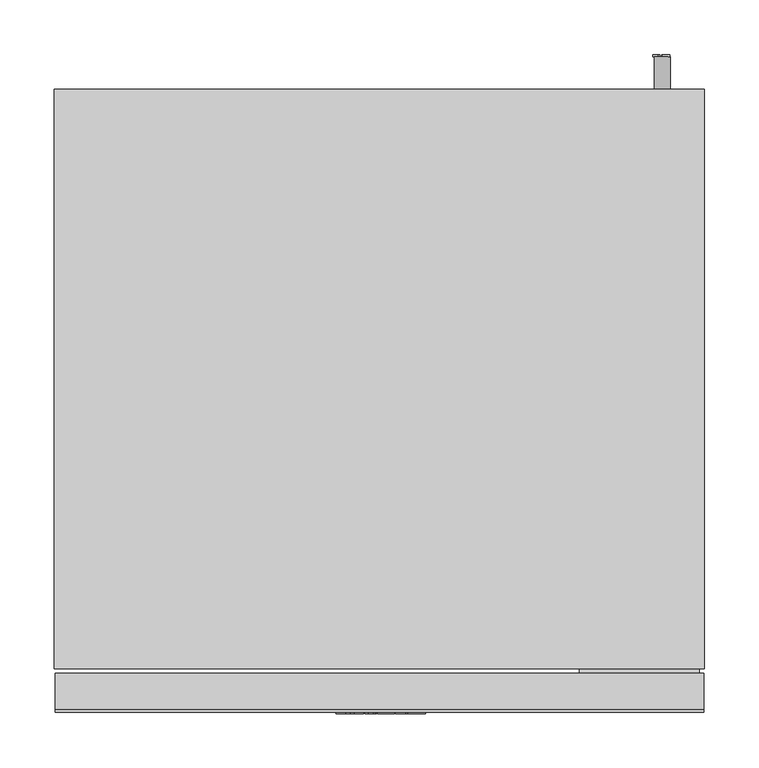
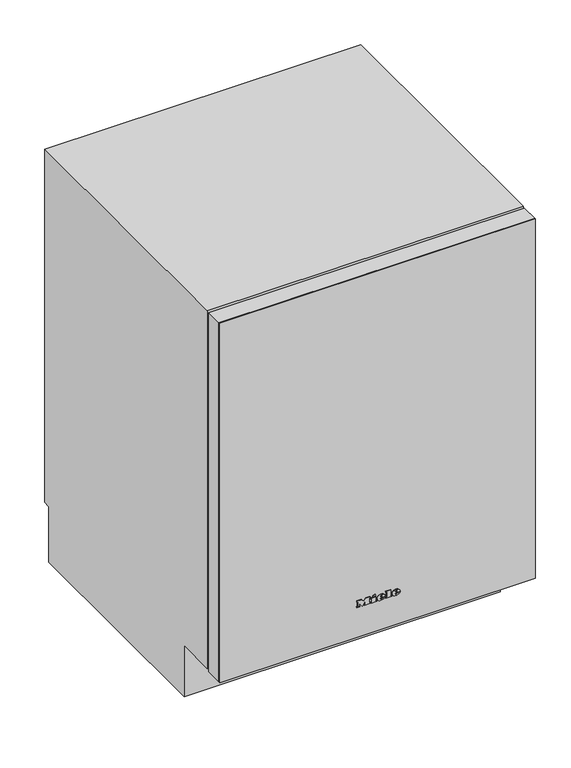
"""IFC4 building model written with IfcOpenShell, lengths in millimetres: proxy geometry, 10028650_USA_KWT6312UGS : 36631200_USA_10028650_KWT6312UGS."""

from ifc_helpers import new_model, si_unit, point, frame, frame_2d, origin, place, context, project, spatial, polyline, circle_curve, ellipse_curve, trimmed, segment, composite_curve, outline, extrude, faceted_brep, source, transform, mapped, element, save
from ifc_brep_helpers import plane_surface, cylinder_surface, revolved_surface, extruded_surface, advanced_brep


def specialty_equipment_586057da(model_context):
    return source(origin(), model_context, "Body", "SolidModel", [
        faceted_brep([(233.5, 72.832547, 400.5725635), (233.5, 487.167453, 400.5725635), (203.5, 487.167453, 400.5725635), (203.5, 474.7903394, 400.5725635), (168.5, 474.7903394, 400.5725635), (168.5, 487.167453, 400.5725635), (138.5, 487.167453, 400.5725635), (138.5, 72.832547, 400.5725635), (168.5, 72.832547, 400.5725635), (168.5, 84.832547, 400.5725635), (203.5, 84.832547, 400.5725635), (203.5, 72.832547, 400.5725635), (138.5, 72.832547, 385.5725635), (138.5, 487.167453, 385.5725635), (233.5, 487.167453, 385.5725635), (233.5, 72.832547, 385.5725635), (203.5, 72.832547, 615.5725635), (168.5, 72.832547, 615.5725635), (168.5, 487.167453, 615.5725635), (203.5, 487.167453, 615.5725635), (203.5, 84.832547, 615.5725635), (193.5, 84.832547, 615.5725635), (193.5, 474.7903394, 615.5725635), (203.5, 474.7903394, 615.5725635), (168.5, 474.7903394, 615.5725635), (187.2040205, 474.7903394, 615.5725635), (187.2040205, 84.832547, 615.5725635), (168.5, 84.832547, 615.5725635), (187.2040205, 84.832547, 565.5725635), (168.5, 84.832547, 565.5725635), (168.5, 84.832547, 555.5725635), (193.5, 84.832547, 555.5725635), (168.5, 474.7903394, 565.5725635), (168.5, 474.7903394, 555.5725635), (193.5, 474.7903394, 555.5725635), (187.2040205, 474.7903394, 565.5725635)], [[[0, 1, 2, 3, 4, 5, 6, 7, 8, 9, 10, 11]], [[12, 13, 14, 15]], [[12, 15, 0, 11, 16, 17, 8, 7]], [[1, 0, 15, 14]], [[14, 13, 6, 5, 18, 19, 2, 1]], [[7, 6, 13, 12]], [[17, 16, 20, 21, 22, 23, 19, 18, 24, 25, 26, 27]], [[20, 16, 11, 10]], [[27, 26, 28, 29]], [[20, 10, 9, 30, 31, 21]], [[17, 27, 29, 32, 24, 18, 5, 4, 33, 30, 9, 8]], [[34, 31, 30, 33]], [[22, 21, 31, 34]], [[32, 29, 28, 35]], [[19, 23, 3, 2]], [[25, 24, 32, 35]], [[3, 23, 22, 34, 33, 4]], [[26, 25, 35, 28]]]),
        faceted_brep([(258.5, 50.0, 385.5725635), (258.5, 510.0, 385.5725635), (-258.5, 510.0, 385.5725635), (-258.5, 50.0, 385.5725635), (-101.5, 91.5, 385.5725635), (-214.5, 91.5, 385.5725635), (-214.5, 171.5, 385.5725635), (-101.5, 171.5, 385.5725635), (-101.5, 189.0, 385.5725635), (-214.5, 189.0, 385.5725635), (-214.5, 271.0, 385.5725635), (-101.5, 271.0, 385.5725635), (-101.5, 289.0, 385.5725635), (-214.5, 289.0, 385.5725635), (-214.5, 369.0, 385.5725635), (-101.5, 369.0, 385.5725635), (-101.5, 387.0, 385.5725635), (-214.5, 387.0, 385.5725635), (-214.5, 467.0, 385.5725635), (-101.5, 467.0, 385.5725635), (-258.5, 50.0, 376.0), (-258.5, 510.0, 376.0), (258.5, 510.0, 376.0), (258.5, 50.0, 376.0), (-93.5, 80.0, 376.0), (-93.5, 480.0, 376.0), (-222.5, 480.0, 376.0), (-222.5, 80.0, 376.0), (-258.5, 40.0, 367.9661502), (258.5, 40.0, 367.9661502), (258.5, 40.0, 370.9661502), (-258.5, 40.0, 370.9661502), (258.5, 40.0, 393.9661502), (-258.5, 40.0, 393.9661502), (-258.5, 40.0, 390.9661502), (258.5, 40.0, 390.9661502), (258.5, 50.0, 367.9661502), (258.5, 510.0, 367.9661502), (258.5, 520.0, 367.9661502), (258.5, 520.0, 370.9661502), (258.5, 519.4354278, 370.9661502), (258.5, 519.4354278, 390.9661502), (258.5, 520.0, 390.9661502), (258.5, 520.0, 393.9661502), (258.5, 510.0, 393.9661502), (258.5, 50.0, 393.9661502), (258.5, 41.0, 390.9661502), (258.5, 41.0, 370.9661502), (-258.5, 520.0, 393.9661502), (-258.5, 520.0, 390.9661502), (-258.5, 520.0, 367.9661502), (-258.5, 520.0, 370.9661502), (-258.5, 50.0, 393.9661502), (-258.5, 510.0, 393.9661502), (-258.5, 519.4354278, 390.9661502), (-258.5, 519.4354278, 370.9661502), (-258.5, 510.0, 367.9661502), (-258.5, 50.0, 367.9661502), (-258.5, 41.0, 370.9661502), (-258.5, 41.0, 390.9661502), (-93.5, 480.0, 307.0), (-93.5, 80.0, 307.0), (-222.5, 80.0, 307.0), (-222.5, 480.0, 307.0), (-101.5, 91.5, 334.9654333), (-214.5, 91.5, 334.9654333), (-101.5, 171.5, 334.9654333), (-214.5, 171.5, 334.9654333), (-101.5, 189.0, 334.9654333), (-214.5, 189.0, 334.9654333), (-101.5, 271.0, 334.9654333), (-214.5, 271.0, 334.9654333), (-101.5, 289.0, 334.9654333), (-214.5, 289.0, 334.9654333), (-101.5, 369.0, 334.9654333), (-214.5, 369.0, 334.9654333), (-101.5, 387.0, 334.9654333), (-214.5, 387.0, 334.9654333), (-101.5, 467.0, 334.9654333), (-214.5, 467.0, 334.9654333)], [[[0, 1, 2, 3], [4, 5, 6, 7], [8, 9, 10, 11], [12, 13, 14, 15], [16, 17, 18, 19]], [[20, 21, 22, 23], [24, 25, 26, 27]], [[28, 29, 30, 31]], [[32, 33, 34, 35]], [[29, 36, 23, 22, 37, 38, 39, 40, 41, 42, 43, 44, 1, 0, 45, 32, 35, 46, 47, 30]], [[48, 43, 42, 49]], [[38, 50, 51, 39]], [[33, 52, 3, 2, 53, 48, 49, 54, 55, 51, 50, 56, 21, 20, 57, 28, 31, 58, 59, 34]], [[52, 33, 32, 45]], [[52, 45, 0, 3]], [[36, 57, 20, 23]], [[28, 57, 36, 29]], [[48, 53, 44, 43]], [[56, 50, 38, 37]], [[44, 53, 2, 1]], [[56, 37, 22, 21]], [[60, 61, 62, 63]], [[61, 60, 25, 24]], [[62, 61, 24, 27]], [[63, 62, 27, 26]], [[60, 63, 26, 25]], [[64, 65, 5, 4]], [[66, 64, 4, 7]], [[67, 66, 7, 6]], [[65, 67, 6, 5]], [[68, 69, 9, 8]], [[70, 68, 8, 11]], [[71, 70, 11, 10]], [[69, 71, 10, 9]], [[72, 73, 13, 12]], [[74, 72, 12, 15]], [[75, 74, 15, 14]], [[73, 75, 14, 13]], [[76, 77, 17, 16]], [[78, 76, 16, 19]], [[79, 78, 19, 18]], [[77, 79, 18, 17]], [[54, 41, 40, 55]], [[41, 54, 49, 42]], [[55, 40, 39, 51]], [[65, 64, 66, 67]], [[69, 68, 70, 71]], [[73, 72, 74, 75]], [[77, 76, 78, 79]], [[58, 47, 46, 59]], [[47, 58, 31, 30]], [[59, 46, 35, 34]]]),
        advanced_brep(
        [(33.17, -1.0, 162.5204142), (33.17, -1.0, 163.8839142), (42.2015, -1.0, 163.8839142), (26.4875, -1.0, 163.8839142), (30.2, -1.0, 159.3209142), (41.972, -1.0, 162.5204142), (37.895, -1.0, 162.5204142), (34.682, -1.0, 161.0084142), (33.17, -1.0, 165.6119142), (33.17, -1.0, 167.0834142), (35.4785, -1.0, 167.0834142), (35.4785, -1.0, 165.6119142), (33.17, 0.0, 162.5204142), (34.682, 0.0, 161.0084142), (37.895, 0.0, 162.5204142), (41.972, 0.0, 162.5204142), (30.2, 0.0, 159.3209142), (26.4875, 0.0, 163.8839142), (42.2015, 0.0, 163.8839142), (33.17, 0.0, 163.8839142), (33.17, 0.0, 165.6119142), (35.4785, 0.0, 165.6119142), (35.4785, 0.0, 167.0834142), (33.17, 0.0, 167.0834142)],
        [
            (0, 1),
            (1, 2),
            (2, 3, ellipse_curve(frame((34.3445, -1.0, 163.8839142), z_axis=(0.0, -1.0, 0.0), x_axis=(-1.0, 0.0, 0.0)), 7.857, 6.4935)),
            (3, 4, circle_curve(frame((31.7120736, -1.0, 164.3429142), z_axis=(0.0, -1.0, 0.0), x_axis=(0.0, 0.0, -1.0)), 5.2446974)),
            (4, 5, circle_curve(frame((34.1872142, -1.0, 167.9069142), z_axis=(0.0, -1.0, 0.0), x_axis=(0.0, 0.0, -1.0)), 9.46664)),
            (5, 6),
            (6, 7, circle_curve(frame((35.3419118, -1.0, 163.7759142), z_axis=(0.0, 1.0, 0.0), x_axis=(0.0, 0.0, -1.0)), 2.8450905)),
            (7, 0, circle_curve(frame((34.682, -1.0, 162.5204142), z_axis=(0.0, 1.0, 0.0), x_axis=(0.0, 0.0, -1.0)), 1.512)),
            (8, 9),
            (9, 10, circle_curve(frame((34.32425, -1.0, 167.0834142), z_axis=(0.0, 1.0, 0.0), x_axis=(0.0, 0.0, -1.0)), 1.15425)),
            (10, 11),
            (11, 8),
            (12, 13, circle_curve(frame((34.682, 0.0, 162.5204142), z_axis=(0.0, -1.0, 0.0), x_axis=(0.0, 0.0, -1.0)), 1.512)),
            (13, 14, circle_curve(frame((35.3419118, 0.0, 163.7759142), z_axis=(0.0, -1.0, 0.0), x_axis=(0.0, 0.0, -1.0)), 2.8450905)),
            (14, 15),
            (15, 16, circle_curve(frame((34.1872142, 0.0, 167.9069142), z_axis=(0.0, 1.0, 0.0), x_axis=(0.0, 0.0, -1.0)), 9.46664)),
            (16, 17, circle_curve(frame((31.7120736, 0.0, 164.3429142), z_axis=(0.0, 1.0, 0.0), x_axis=(0.0, 0.0, -1.0)), 5.2446974)),
            (17, 18, ellipse_curve(frame((34.3445, 0.0, 163.8839142), z_axis=(0.0, 1.0, 0.0), x_axis=(-1.0, 0.0, 0.0)), 7.857, 6.4935)),
            (18, 19),
            (19, 12),
            (20, 21),
            (21, 22),
            (22, 23, circle_curve(frame((34.32425, 0.0, 167.0834142), z_axis=(0.0, -1.0, 0.0), x_axis=(0.0, 0.0, -1.0)), 1.15425)),
            (23, 20),
            (0, 12),
            (19, 1),
            (18, 2),
            (5, 15),
            (14, 6),
            (17, 3),
            (13, 7),
            (16, 4),
            (8, 20),
            (23, 9),
            (22, 10),
            (21, 11),
        ],
        [
            plane_surface(frame((33.17, -1.0, 163.8839142), z_axis=(0.0, -1.0, 0.0), x_axis=(0.0, 0.0, 1.0))),
            plane_surface(frame((33.17, 0.0, 163.8839142), z_axis=(0.0, 1.0, 0.0), x_axis=(0.0, 0.0, -1.0))),
            plane_surface(frame((33.17, -1.0, 162.5204142), z_axis=(1.0, 0.0, 0.0), x_axis=(0.0, 1.0, 0.0))),
            plane_surface(frame((33.17, -1.0, 163.8839142), z_axis=(0.0, 0.0, -1.0), x_axis=(0.0, 1.0, 0.0))),
            plane_surface(frame((41.972, -1.0, 162.5204142), z_axis=(0.0, 0.0, 1.0), x_axis=(0.0, 1.0, 0.0))),
            extruded_surface(trimmed(ellipse_curve(frame((34.3445, 1.0, 163.8839142), z_axis=(0.0, -1.0, 0.0), x_axis=(-1.0, 0.0, 0.0)), 7.857, 6.4935), [point((42.2015, 1.0, 163.8839142))], [point((26.4875, 1.0, 163.8839142))], True, "CARTESIAN"), (0.0, -1.0, 0.0), 1.0),
            revolved_surface(polyline([(35.3419118, 0.0, 160.9308237), (35.3419118, -1.0, 160.9308237)]), (35.3419118, 0.0, 163.7759142), (0.0, 1.0, 0.0)),
            revolved_surface(polyline([(34.682, 0.0, 161.0084142), (34.682, -1.0, 161.0084142)]), (34.682, 0.0, 162.5204142), (0.0, 1.0, 0.0)),
            cylinder_surface(frame((31.7120736, 0.0, 164.3429142), z_axis=(0.0, -1.0, 0.0), x_axis=(0.0, 0.0, -1.0)), 5.2446974),
            cylinder_surface(frame((34.1872142, 0.0, 167.9069142), z_axis=(0.0, -1.0, 0.0), x_axis=(0.0, 0.0, -1.0)), 9.46664),
            plane_surface(frame((33.17, -1.0, 165.6119142), z_axis=(1.0, 0.0, 0.0), x_axis=(0.0, 1.0, 0.0))),
            revolved_surface(polyline([(34.32425, 0.0, 165.9291642), (34.32425, -1.0, 165.9291642)]), (34.32425, 0.0, 167.0834142), (0.0, 1.0, 0.0)),
            plane_surface(frame((35.4785, -1.0, 167.0834142), z_axis=(-1.0, 0.0, 0.0), x_axis=(0.0, 1.0, 0.0))),
            plane_surface(frame((35.4785, -1.0, 165.6119142), z_axis=(0.0, 0.0, 1.0), x_axis=(0.0, 1.0, 0.0))),
        ],
        [
            (0, [[1, 2, 3, 4, 5, 6, 7, 8], [9, 10, 11, 12]]),
            (1, [[13, 14, 15, 16, 17, 18, 19, 20], [21, 22, 23, 24]]),
            (2, [[-1, 25, -20, 26]]),
            (3, [[-2, -26, -19, 27]]),
            (4, [[-6, 28, -15, 29]]),
            (5, [[-3, -27, -18, 30]]),
            (6, [[-7, -29, -14, 31]]),
            (7, [[-8, -31, -13, -25]]),
            (8, [[-4, -30, -17, 32]]),
            (9, [[-5, -32, -16, -28]]),
            (10, [[-9, 33, -24, 34]]),
            (11, [[-10, -34, -23, 35]]),
            (12, [[-11, -35, -22, 36]]),
            (13, [[-12, -36, -21, -33]]),
        ],
    ),
        advanced_brep(
        [(4.9955, -1.0, 162.5204142), (4.9955, -1.0, 163.8839142), (14.027, -1.0, 163.8839142), (-1.687, -1.0, 163.8839142), (2.0255, -1.0, 159.3209142), (13.7975, -1.0, 162.5204142), (9.7205, -1.0, 162.5204142), (6.5075, -1.0, 161.0084142), (4.9955, -1.0, 165.6119142), (4.9955, -1.0, 167.0834142), (7.304, -1.0, 167.0834142), (7.304, -1.0, 165.6119142), (4.9955, 0.0, 162.5204142), (6.5075, 0.0, 161.0084142), (9.7205, 0.0, 162.5204142), (13.7975, 0.0, 162.5204142), (2.0255, 0.0, 159.3209142), (-1.687, 0.0, 163.8839142), (14.027, 0.0, 163.8839142), (4.9955, 0.0, 163.8839142), (4.9955, 0.0, 165.6119142), (7.304, 0.0, 165.6119142), (7.304, 0.0, 167.0834142), (4.9955, 0.0, 167.0834142)],
        [
            (0, 1),
            (1, 2),
            (2, 3, ellipse_curve(frame((6.17, -1.0, 163.8839142), z_axis=(0.0, -1.0, 0.0), x_axis=(-1.0, 0.0, 0.0)), 7.857, 6.4935)),
            (3, 4, circle_curve(frame((3.5375736, -1.0, 164.3429142), z_axis=(0.0, -1.0, 0.0), x_axis=(0.0, 0.0, -1.0)), 5.2446974)),
            (4, 5, circle_curve(frame((6.0127142, -1.0, 167.9069142), z_axis=(0.0, -1.0, 0.0), x_axis=(0.0, 0.0, -1.0)), 9.46664)),
            (5, 6),
            (6, 7, circle_curve(frame((7.1674118, -1.0, 163.7759142), z_axis=(0.0, 1.0, 0.0), x_axis=(0.0, 0.0, -1.0)), 2.8450905)),
            (7, 0, circle_curve(frame((6.5075, -1.0, 162.5204142), z_axis=(0.0, 1.0, 0.0), x_axis=(0.0, 0.0, -1.0)), 1.512)),
            (8, 9),
            (9, 10, circle_curve(frame((6.14975, -1.0, 167.0834142), z_axis=(0.0, 1.0, 0.0), x_axis=(0.0, 0.0, -1.0)), 1.15425)),
            (10, 11),
            (11, 8),
            (12, 13, circle_curve(frame((6.5075, 0.0, 162.5204142), z_axis=(0.0, -1.0, 0.0), x_axis=(0.0, 0.0, -1.0)), 1.512)),
            (13, 14, circle_curve(frame((7.1674118, 0.0, 163.7759142), z_axis=(0.0, -1.0, 0.0), x_axis=(0.0, 0.0, -1.0)), 2.8450905)),
            (14, 15),
            (15, 16, circle_curve(frame((6.0127142, 0.0, 167.9069142), z_axis=(0.0, 1.0, 0.0), x_axis=(0.0, 0.0, -1.0)), 9.46664)),
            (16, 17, circle_curve(frame((3.5375736, 0.0, 164.3429142), z_axis=(0.0, 1.0, 0.0), x_axis=(0.0, 0.0, -1.0)), 5.2446974)),
            (17, 18, ellipse_curve(frame((6.17, 0.0, 163.8839142), z_axis=(0.0, 1.0, 0.0), x_axis=(-1.0, 0.0, 0.0)), 7.857, 6.4935)),
            (18, 19),
            (19, 12),
            (20, 21),
            (21, 22),
            (22, 23, circle_curve(frame((6.14975, 0.0, 167.0834142), z_axis=(0.0, -1.0, 0.0), x_axis=(0.0, 0.0, -1.0)), 1.15425)),
            (23, 20),
            (0, 12),
            (19, 1),
            (18, 2),
            (5, 15),
            (14, 6),
            (17, 3),
            (13, 7),
            (16, 4),
            (8, 20),
            (23, 9),
            (22, 10),
            (21, 11),
        ],
        [
            plane_surface(frame((4.9955, -1.0, 163.8839142), z_axis=(0.0, -1.0, 0.0), x_axis=(0.0, 0.0, 1.0))),
            plane_surface(frame((4.9955, 0.0, 163.8839142), z_axis=(0.0, 1.0, 0.0), x_axis=(0.0, 0.0, -1.0))),
            plane_surface(frame((4.9955, -1.0, 162.5204142), z_axis=(1.0, 0.0, 0.0), x_axis=(0.0, 1.0, 0.0))),
            plane_surface(frame((4.9955, -1.0, 163.8839142), z_axis=(0.0, 0.0, -1.0), x_axis=(0.0, 1.0, 0.0))),
            plane_surface(frame((13.7975, -1.0, 162.5204142), z_axis=(0.0, 0.0, 1.0), x_axis=(0.0, 1.0, 0.0))),
            extruded_surface(trimmed(ellipse_curve(frame((6.17, 1.0, 163.8839142), z_axis=(0.0, -1.0, 0.0), x_axis=(-1.0, 0.0, 0.0)), 7.857, 6.4935), [point((14.027, 1.0, 163.8839142))], [point((-1.687, 1.0, 163.8839142))], True, "CARTESIAN"), (0.0, -1.0, 0.0), 1.0),
            revolved_surface(polyline([(7.1674118, 0.0, 160.9308237), (7.1674118, -1.0, 160.9308237)]), (7.1674118, 0.0, 163.7759142), (0.0, 1.0, 0.0)),
            revolved_surface(polyline([(6.5075, 0.0, 161.0084142), (6.5075, -1.0, 161.0084142)]), (6.5075, 0.0, 162.5204142), (0.0, 1.0, 0.0)),
            cylinder_surface(frame((3.5375736, 0.0, 164.3429142), z_axis=(0.0, -1.0, 0.0), x_axis=(0.0, 0.0, -1.0)), 5.2446974),
            cylinder_surface(frame((6.0127142, 0.0, 167.9069142), z_axis=(0.0, -1.0, 0.0), x_axis=(0.0, 0.0, -1.0)), 9.46664),
            plane_surface(frame((4.9955, -1.0, 165.6119142), z_axis=(1.0, 0.0, 0.0), x_axis=(0.0, 1.0, 0.0))),
            revolved_surface(polyline([(6.14975, 0.0, 165.9291642), (6.14975, -1.0, 165.9291642)]), (6.14975, 0.0, 167.0834142), (0.0, 1.0, 0.0)),
            plane_surface(frame((7.304, -1.0, 167.0834142), z_axis=(-1.0, 0.0, 0.0), x_axis=(0.0, 1.0, 0.0))),
            plane_surface(frame((7.304, -1.0, 165.6119142), z_axis=(0.0, 0.0, 1.0), x_axis=(0.0, 1.0, 0.0))),
        ],
        [
            (0, [[1, 2, 3, 4, 5, 6, 7, 8], [9, 10, 11, 12]]),
            (1, [[13, 14, 15, 16, 17, 18, 19, 20], [21, 22, 23, 24]]),
            (2, [[-1, 25, -20, 26]]),
            (3, [[-2, -26, -19, 27]]),
            (4, [[-6, 28, -15, 29]]),
            (5, [[-3, -27, -18, 30]]),
            (6, [[-7, -29, -14, 31]]),
            (7, [[-8, -31, -13, -25]]),
            (8, [[-4, -30, -17, 32]]),
            (9, [[-5, -32, -16, -28]]),
            (10, [[-9, 33, -24, 34]]),
            (11, [[-10, -34, -23, 35]]),
            (12, [[-11, -35, -22, 36]]),
            (13, [[-12, -36, -21, -33]]),
        ],
    ),
        extrude(outline(polyline([(172.0244142, -9.76), (169.8374142, -8.734), (171.9704142, -4.1575), (174.1574142, -5.17), (172.0244142, -9.76)])), frame((0.0, -1.0, 0.0), z_axis=(0.0, 1.0, 0.0), x_axis=(0.0, 0.0, 1.0)), (0.0, 0.0, 1.0), 1.0),
        extrude(outline(polyline([(169.5404142, -13.0945), (167.1239142, -13.0945), (167.1239142, -11.488), (161.5889142, -11.488), (161.5889142, -13.0945), (159.3209142, -13.0945), (159.3209142, -2.443), (161.5889142, -2.443), (161.5889142, -4.009), (169.5404142, -4.009), (169.5404142, -13.0945)])), frame((0.0, -1.0, 0.0), z_axis=(0.0, 1.0, 0.0), x_axis=(0.0, 0.0, 1.0)), (0.0, 0.0, 1.0), 1.0),
        extrude(outline(polyline([(170.6204142, 14.783), (170.6204142, 16.403), (161.5889142, 16.403), (161.5889142, 14.783), (159.3209142, 14.783), (159.3209142, 25.7315), (161.5889142, 25.7315), (161.5889142, 24.071), (172.8209142, 24.071), (172.8209142, 14.783), (170.6204142, 14.783)])), frame((0.0, -1.0, 0.0), z_axis=(0.0, 1.0, 0.0), x_axis=(0.0, 0.0, 1.0)), (0.0, 0.0, 1.0), 1.0),
        extrude(outline(polyline([(170.6204142, -40.0), (170.6204142, -38.3665), (161.5889142, -38.3665), (161.5889142, -40.0), (159.3209142, -40.0), (159.3209142, -34.06), (161.5889142, -34.06), (161.5889142, -35.68), (167.2965389, -35.68), (159.3209142, -29.6455), (167.5736365, -23.584), (161.5889142, -23.584), (161.5889142, -25.2445), (159.3209142, -25.2445), (159.3209142, -14.4715), (161.5889142, -14.4715), (161.5889142, -16.186), (170.6204142, -16.186), (170.6204142, -14.4715), (172.8209142, -14.4715), (172.8209142, -22.693), (167.7584142, -26.635), (172.8209142, -30.5905), (172.8209142, -40.0), (170.6204142, -40.0)])), frame((0.0, -1.0, 0.0), z_axis=(0.0, 1.0, 0.0), x_axis=(0.0, 0.0, 1.0)), (0.0, 0.0, 1.0), 1.0),
        extrude(outline(composite_curve([segment(trimmed(circle_curve(frame_2d((108.0, 260.0)), 7.5), [point((108.0, 267.5))], [point((108.0, 252.5))], False, "CARTESIAN"), True, "CONTINUOUS"), segment(trimmed(circle_curve(frame_2d((108.0, 260.0)), 7.5), [point((108.0, 252.5))], [point((108.0, 267.5))], False, "CARTESIAN"), True, "CONTINUOUS")], self_intersect=False)), frame((0.0, 572.0, 0.0), z_axis=(0.0, 1.0, 0.0), x_axis=(0.0, 0.0, 1.0)), (0.0, 0.0, 1.0), 30.0),
        advanced_brep(
        [(298.5, 572.0, 818.0), (-298.5, 572.0, 818.0), (-298.5, 40.0, 818.0), (298.5, 40.0, 818.0), (295.0, 497.0, 0.0), (262.0, 497.0, 0.0), (-262.0, 497.0, 0.0), (-295.0, 497.0, 0.0), (-262.0, 137.0, 0.0), (-295.0, 137.0, 0.0), (295.0, 137.0, 0.0), (262.0, 137.0, 0.0), (298.5, 572.0, 113.0), (-298.5, 572.0, 113.0), (-298.5, 558.5607135, 113.0), (-298.5, 558.5607135, 2.0), (-298.5, 116.0, 2.0), (-298.5, 116.0, 104.0), (-298.5, 40.0, 104.0), (298.5, 40.0, 104.0), (-258.5, 40.0, 723.0), (258.5, 40.0, 723.0), (258.5, 40.0, 180.0), (-258.5, 40.0, 180.0), (298.5, 116.0, 104.0), (298.5, 116.0, 2.0), (298.5, 558.5607135, 2.0), (298.5, 558.5607135, 113.0), (258.5, 520.0, 723.0), (-258.5, 520.0, 723.0), (-258.5, 520.0, 180.0), (258.5, 520.0, 180.0), (295.0, 497.0, 2.0), (262.0, 497.0, 2.0), (-262.0, 497.0, 2.0), (-295.0, 497.0, 2.0), (-262.0, 137.0, 2.0), (-295.0, 137.0, 2.0), (295.0, 137.0, 2.0), (262.0, 137.0, 2.0)],
        [
            (0, 1),
            (1, 2),
            (2, 3),
            (3, 0),
            (4, 5, circle_curve(frame((278.5, 497.0, 0.0), z_axis=(0.0, 0.0, -1.0), x_axis=(-1.0, 0.0, 0.0)), 16.5)),
            (5, 4, circle_curve(frame((278.5, 497.0, 0.0), z_axis=(0.0, 0.0, -1.0), x_axis=(-1.0, 0.0, 0.0)), 16.5)),
            (6, 7, circle_curve(frame((-278.5, 497.0, 0.0), z_axis=(0.0, 0.0, -1.0), x_axis=(-1.0, 0.0, 0.0)), 16.5)),
            (7, 6, circle_curve(frame((-278.5, 497.0, 0.0), z_axis=(0.0, 0.0, -1.0), x_axis=(-1.0, 0.0, 0.0)), 16.5)),
            (8, 9, circle_curve(frame((-278.5, 137.0, 0.0), z_axis=(0.0, 0.0, -1.0), x_axis=(-1.0, 0.0, 0.0)), 16.5)),
            (9, 8, circle_curve(frame((-278.5, 137.0, 0.0), z_axis=(0.0, 0.0, -1.0), x_axis=(-1.0, 0.0, 0.0)), 16.5)),
            (10, 11, circle_curve(frame((278.5, 137.0, 0.0), z_axis=(0.0, 0.0, -1.0), x_axis=(-1.0, 0.0, 0.0)), 16.5)),
            (11, 10, circle_curve(frame((278.5, 137.0, 0.0), z_axis=(0.0, 0.0, -1.0), x_axis=(-1.0, 0.0, 0.0)), 16.5)),
            (0, 12),
            (12, 13),
            (13, 1),
            (13, 14),
            (14, 15),
            (15, 16),
            (16, 17),
            (17, 18),
            (18, 2),
            (18, 19),
            (19, 3),
            (20, 21),
            (21, 22),
            (22, 23),
            (23, 20),
            (19, 24),
            (24, 25),
            (25, 26),
            (26, 27),
            (27, 12),
            (28, 29),
            (29, 30),
            (30, 31),
            (31, 28),
            (28, 21),
            (20, 29),
            (23, 30),
            (22, 31),
            (25, 16),
            (15, 26),
            (32, 33, circle_curve(frame((278.5, 497.0, 2.0), z_axis=(0.0, 0.0, 1.0), x_axis=(-1.0, 0.0, 0.0)), 16.5)),
            (33, 32, circle_curve(frame((278.5, 497.0, 2.0), z_axis=(0.0, 0.0, 1.0), x_axis=(-1.0, 0.0, 0.0)), 16.5)),
            (34, 35, circle_curve(frame((-278.5, 497.0, 2.0), z_axis=(0.0, 0.0, 1.0), x_axis=(-1.0, 0.0, 0.0)), 16.5)),
            (35, 34, circle_curve(frame((-278.5, 497.0, 2.0), z_axis=(0.0, 0.0, 1.0), x_axis=(-1.0, 0.0, 0.0)), 16.5)),
            (36, 37, circle_curve(frame((-278.5, 137.0, 2.0), z_axis=(0.0, 0.0, 1.0), x_axis=(-1.0, 0.0, 0.0)), 16.5)),
            (37, 36, circle_curve(frame((-278.5, 137.0, 2.0), z_axis=(0.0, 0.0, 1.0), x_axis=(-1.0, 0.0, 0.0)), 16.5)),
            (38, 39, circle_curve(frame((278.5, 137.0, 2.0), z_axis=(0.0, 0.0, 1.0), x_axis=(-1.0, 0.0, 0.0)), 16.5)),
            (39, 38, circle_curve(frame((278.5, 137.0, 2.0), z_axis=(0.0, 0.0, 1.0), x_axis=(-1.0, 0.0, 0.0)), 16.5)),
            (33, 5),
            (4, 32),
            (35, 7),
            (6, 34),
            (37, 9),
            (8, 36),
            (39, 11),
            (10, 38),
            (24, 17),
            (14, 27),
        ],
        [
            plane_surface(frame((-298.5, 572.0, 818.0), z_axis=(0.0, 0.0, 1.0), x_axis=(-1.0, 0.0, 0.0))),
            plane_surface(frame((-298.5, 572.0, 0.0), z_axis=(0.0, 0.0, -1.0), x_axis=(1.0, 0.0, 0.0))),
            plane_surface(frame((298.5, 572.0, 818.0), z_axis=(0.0, 1.0, 0.0), x_axis=(0.0, 0.0, -1.0))),
            plane_surface(frame((-298.5, 572.0, 818.0), z_axis=(-1.0, 0.0, 0.0), x_axis=(0.0, 0.0, -1.0))),
            plane_surface(frame((-298.5, 40.0, 818.0), z_axis=(0.0, -1.0, 0.0), x_axis=(0.0, 0.0, -1.0))),
            plane_surface(frame((298.5, 40.0, 818.0), z_axis=(1.0, 0.0, 0.0), x_axis=(0.0, 0.0, -1.0))),
            plane_surface(frame((-258.5, 520.0, 723.0), z_axis=(0.0, -1.0, 0.0), x_axis=(1.0, 0.0, 0.0))),
            plane_surface(frame((258.5, 40.0, 723.0), z_axis=(0.0, 0.0, -1.0), x_axis=(0.0, 1.0, 0.0))),
            plane_surface(frame((-258.5, 40.0, 723.0), z_axis=(1.0, 0.0, 0.0), x_axis=(0.0, 1.0, 0.0))),
            plane_surface(frame((-258.5, 40.0, 180.0), z_axis=(0.0, 0.0, 1.0), x_axis=(0.0, 1.0, 0.0))),
            plane_surface(frame((258.5, 40.0, 180.0), z_axis=(-1.0, 0.0, 0.0), x_axis=(0.0, 1.0, 0.0))),
            plane_surface(frame((-298.5, 572.0, 2.0), z_axis=(0.0, 0.0, -1.0), x_axis=(-1.0, 0.0, 0.0))),
            cylinder_surface(frame((278.5, 497.0, 0.0), z_axis=(0.0, 0.0, -1.0), x_axis=(-1.0, 0.0, 0.0)), 16.5),
            cylinder_surface(frame((-278.5, 497.0, 0.0), z_axis=(0.0, 0.0, -1.0), x_axis=(-1.0, 0.0, 0.0)), 16.5),
            cylinder_surface(frame((-278.5, 137.0, 0.0), z_axis=(0.0, 0.0, -1.0), x_axis=(-1.0, 0.0, 0.0)), 16.5),
            cylinder_surface(frame((278.5, 137.0, 0.0), z_axis=(0.0, 0.0, -1.0), x_axis=(-1.0, 0.0, 0.0)), 16.5),
            plane_surface(frame((298.5, 116.0, 104.0), z_axis=(0.0, -1.0, 0.0), x_axis=(0.0, 0.0, -1.0))),
            plane_surface(frame((-298.5, 116.0, 104.0), z_axis=(0.0, 0.0, -1.0), x_axis=(0.0, -1.0, 0.0))),
            plane_surface(frame((298.5, 558.5607135, 113.0), z_axis=(0.0, 1.0, 0.0), x_axis=(-1.0, 0.0, 0.0))),
            plane_surface(frame((-298.5, 572.0, 113.0), z_axis=(0.0, 0.0, -1.0), x_axis=(0.0, -1.0, 0.0))),
        ],
        [
            (0, [[1, 2, 3, 4]]),
            (1, [[5, 6]]),
            (1, [[7, 8]]),
            (1, [[9, 10]]),
            (1, [[11, 12]]),
            (2, [[-1, 13, 14, 15]]),
            (3, [[-2, -15, 16, 17, 18, 19, 20, 21]]),
            (4, [[-3, -21, 22, 23], [24, 25, 26, 27]]),
            (5, [[-4, -23, 28, 29, 30, 31, 32, -13]]),
            (6, [[33, 34, 35, 36]]),
            (7, [[-33, 37, -24, 38]]),
            (8, [[-34, -38, -27, 39]]),
            (9, [[-35, -39, -26, 40]]),
            (10, [[-36, -40, -25, -37]]),
            (11, [[41, -18, 42, -30], [43, 44], [45, 46], [47, 48], [49, 50]]),
            (12, [[-44, 51, -5, 52]]),
            (12, [[-43, -52, -6, -51]]),
            (13, [[-46, 53, -7, 54]]),
            (13, [[-45, -54, -8, -53]]),
            (14, [[-48, 55, -9, 56]]),
            (14, [[-47, -56, -10, -55]]),
            (15, [[-50, 57, -11, 58]]),
            (15, [[-49, -58, -12, -57]]),
            (16, [[59, -19, -41, -29]]),
            (17, [[-59, -28, -22, -20]]),
            (18, [[60, -31, -42, -17]]),
            (19, [[-60, -16, -14, -32]]),
        ],
    ),
        extrude(outline(polyline([(258.5, 347.0), (-258.5, 347.0), (-258.5, 520.0), (258.5, 520.0), (258.5, 347.0)])), frame((0.0, 0.0, 180.0), z_axis=(0.0, 0.0, 1.0), x_axis=(1.0, 0.0, 0.0)), (0.0, 0.0, 1.0), 74.0),
        extrude(outline(polyline([(257.5, 52.0), (-257.5, 52.0), (-257.5, 91.0), (257.5, 91.0), (257.5, 52.0)])), frame((0.0, 0.0, 668.0), z_axis=(0.0, 0.0, 1.0), x_axis=(1.0, 0.0, 0.0)), (0.0, 0.0, 1.0), 54.0),
        extrude(outline(composite_curve([segment(trimmed(circle_curve(frame_2d((108.0, 260.0)), 7.5), [point((108.0, 252.5))], [point((108.0, 267.5))], False, "CARTESIAN"), True, "CONTINUOUS"), segment(trimmed(circle_curve(frame_2d((108.0, 260.0)), 7.5), [point((108.0, 267.5))], [point((108.0, 252.5))], False, "CARTESIAN"), True, "CONTINUOUS")], self_intersect=False)), frame((0.0, 558.5607135, 0.0), z_axis=(0.0, 1.0, 0.0), x_axis=(0.0, 0.0, 1.0)), (0.0, 0.0, 1.0), 13.4392865),
        extrude(outline(polyline([(103.4868018, 267.0257364), (113.5324329, 267.0257364), (113.5324329, 259.8054391), (112.276729, 259.8054391), (112.276729, 265.7700325), (109.2944323, 265.7700325), (109.2944323, 260.119365), (108.0387284, 260.119365), (108.0387284, 265.7700325), (104.7425057, 265.7700325), (104.7425057, 259.6484761), (103.4868018, 259.6484761), (103.4868018, 267.0257364)])), frame((0.0, 602.0, 0.0), z_axis=(0.0, 1.0, 0.0), x_axis=(0.0, 0.0, 1.0)), (0.0, 0.0, 1.0), 2.0),
        extrude(outline(polyline([(103.4868018, 257.7649203), (113.5324329, 257.7649203), (113.5324329, 256.5092164), (104.7425057, 256.5092164), (104.7425057, 251.4864009), (103.4868018, 251.4864009), (103.4868018, 257.7649203)])), frame((0.0, 602.0, 0.0), z_axis=(0.0, 1.0, 0.0), x_axis=(0.0, 0.0, 1.0)), (0.0, 0.0, 1.0), 2.0),
        extrude(outline(polyline([(10.0, 47.0438353), (-10.0, 47.0438353), (-10.0, 520.0), (10.0, 520.0), (10.0, 47.0438353)])), frame((0.0, 0.0, 281.0), z_axis=(0.0, 0.0, 1.0), x_axis=(1.0, 0.0, 0.0)), (0.0, 0.0, 1.0), 10.0),
        extrude(outline(polyline([(-47.125, 47.0438353), (-67.125, 47.0438353), (-67.125, 520.0), (-47.125, 520.0), (-47.125, 47.0438353)])), frame((0.0, 0.0, 281.0), z_axis=(0.0, 0.0, 1.0), x_axis=(1.0, 0.0, 0.0)), (0.0, 0.0, 1.0), 10.0),
        extrude(outline(polyline([(-104.25, 47.0438353), (-124.25, 47.0438353), (-124.25, 520.0), (-104.25, 520.0), (-104.25, 47.0438353)])), frame((0.0, 0.0, 281.0), z_axis=(0.0, 0.0, 1.0), x_axis=(1.0, 0.0, 0.0)), (0.0, 0.0, 1.0), 10.0),
        extrude(outline(polyline([(-161.375, 47.0438353), (-181.375, 47.0438353), (-181.375, 520.0), (-161.375, 520.0), (-161.375, 47.0438353)])), frame((0.0, 0.0, 281.0), z_axis=(0.0, 0.0, 1.0), x_axis=(1.0, 0.0, 0.0)), (0.0, 0.0, 1.0), 10.0),
        extrude(outline(polyline([(-218.5, 47.0438353), (-238.5, 47.0438353), (-238.5, 520.0), (-218.5, 520.0), (-218.5, 47.0438353)])), frame((0.0, 0.0, 281.0), z_axis=(0.0, 0.0, 1.0), x_axis=(1.0, 0.0, 0.0)), (0.0, 0.0, 1.0), 10.0),
        extrude(outline(polyline([(67.125, 47.0438353), (47.125, 47.0438353), (47.125, 520.0), (67.125, 520.0), (67.125, 47.0438353)])), frame((0.0, 0.0, 281.0), z_axis=(0.0, 0.0, 1.0), x_axis=(1.0, 0.0, 0.0)), (0.0, 0.0, 1.0), 10.0),
        extrude(outline(polyline([(124.25, 47.0438353), (104.25, 47.0438353), (104.25, 520.0), (124.25, 520.0), (124.25, 47.0438353)])), frame((0.0, 0.0, 281.0), z_axis=(0.0, 0.0, 1.0), x_axis=(1.0, 0.0, 0.0)), (0.0, 0.0, 1.0), 10.0),
        extrude(outline(polyline([(181.375, 47.0438353), (161.375, 47.0438353), (161.375, 520.0), (181.375, 520.0), (181.375, 47.0438353)])), frame((0.0, 0.0, 281.0), z_axis=(0.0, 0.0, 1.0), x_axis=(1.0, 0.0, 0.0)), (0.0, 0.0, 1.0), 10.0),
        extrude(outline(polyline([(238.5, 47.0438353), (218.5, 47.0438353), (218.5, 520.0), (238.5, 520.0), (238.5, 47.0438353)])), frame((0.0, 0.0, 281.0), z_axis=(0.0, 0.0, 1.0), x_axis=(1.0, 0.0, 0.0)), (0.0, 0.0, 1.0), 10.0),
        extrude(outline(polyline([(10.0, 44.8678355), (-10.0, 44.8678355), (-10.0, 347.0), (10.0, 347.0), (10.0, 44.8678355)])), frame((0.0, 0.0, 188.0), z_axis=(0.0, 0.0, 1.0), x_axis=(1.0, 0.0, 0.0)), (0.0, 0.0, 1.0), 10.0),
        extrude(outline(polyline([(-47.125, 44.8678355), (-67.125, 44.8678355), (-67.125, 347.0), (-47.125, 347.0), (-47.125, 44.8678355)])), frame((0.0, 0.0, 188.0), z_axis=(0.0, 0.0, 1.0), x_axis=(1.0, 0.0, 0.0)), (0.0, 0.0, 1.0), 10.0),
        extrude(outline(polyline([(-104.25, 44.8678355), (-124.25, 44.8678355), (-124.25, 347.0), (-104.25, 347.0), (-104.25, 44.8678355)])), frame((0.0, 0.0, 188.0), z_axis=(0.0, 0.0, 1.0), x_axis=(1.0, 0.0, 0.0)), (0.0, 0.0, 1.0), 10.0),
        extrude(outline(polyline([(-161.375, 44.8678355), (-181.375, 44.8678355), (-181.375, 347.0), (-161.375, 347.0), (-161.375, 44.8678355)])), frame((0.0, 0.0, 188.0), z_axis=(0.0, 0.0, 1.0), x_axis=(1.0, 0.0, 0.0)), (0.0, 0.0, 1.0), 10.0),
        extrude(outline(polyline([(-218.5, 44.8678355), (-238.5, 44.8678355), (-238.5, 347.0), (-218.5, 347.0), (-218.5, 44.8678355)])), frame((0.0, 0.0, 188.0), z_axis=(0.0, 0.0, 1.0), x_axis=(1.0, 0.0, 0.0)), (0.0, 0.0, 1.0), 10.0),
        extrude(outline(polyline([(67.125, 44.8678355), (47.125, 44.8678355), (47.125, 347.0), (67.125, 347.0), (67.125, 44.8678355)])), frame((0.0, 0.0, 188.0), z_axis=(0.0, 0.0, 1.0), x_axis=(1.0, 0.0, 0.0)), (0.0, 0.0, 1.0), 10.0),
        extrude(outline(polyline([(124.25, 44.8678355), (104.25, 44.8678355), (104.25, 347.0), (124.25, 347.0), (124.25, 44.8678355)])), frame((0.0, 0.0, 188.0), z_axis=(0.0, 0.0, 1.0), x_axis=(1.0, 0.0, 0.0)), (0.0, 0.0, 1.0), 10.0),
        extrude(outline(polyline([(181.375, 44.8678355), (161.375, 44.8678355), (161.375, 347.0), (181.375, 347.0), (181.375, 44.8678355)])), frame((0.0, 0.0, 188.0), z_axis=(0.0, 0.0, 1.0), x_axis=(1.0, 0.0, 0.0)), (0.0, 0.0, 1.0), 10.0),
        extrude(outline(polyline([(238.5, 44.8678355), (218.5, 44.8678355), (218.5, 347.0), (238.5, 347.0), (238.5, 44.8678355)])), frame((0.0, 0.0, 188.0), z_axis=(0.0, 0.0, 1.0), x_axis=(1.0, 0.0, 0.0)), (0.0, 0.0, 1.0), 10.0),
        extrude(outline(polyline([(50.0, 299.3781397), (50.0, 273.0), (40.0, 273.0), (40.0, 276.0), (40.8925608, 276.0), (40.8925608, 295.7661331), (40.0, 295.7661331), (40.0, 299.3781397), (50.0, 299.3781397)])), frame((-258.5, 0.0, 0.0), z_axis=(1.0, 0.0, 0.0), x_axis=(0.0, 1.0, 0.0)), (0.0, 0.0, 1.0), 517.0),
        extrude(outline(polyline([(50.0, 206.3781397), (50.0, 180.0), (40.0, 180.0), (40.0, 183.0), (40.8925608, 183.0), (40.8925608, 202.7661331), (40.0, 202.7661331), (40.0, 206.3781397), (50.0, 206.3781397)])), frame((-258.5, 0.0, 0.0), z_axis=(1.0, 0.0, 0.0), x_axis=(0.0, 1.0, 0.0)), (0.0, 0.0, 1.0), 517.0),
        extrude(outline(polyline([(100.0, 298.0), (817.0, 298.0), (817.0, -298.0), (100.0, -298.0), (100.0, 298.0)]), holes=[polyline([(720.0, 242.5), (197.0, 242.5), (197.0, -242.5), (720.0, -242.5), (720.0, 242.5)])]), frame((0.0, 3.0, 0.0), z_axis=(0.0, 1.0, 0.0), x_axis=(0.0, 0.0, 1.0)), (0.0, 0.0, 1.0), 33.0),
        extrude(outline(polyline([(-242.5, 36.0), (242.5, 36.0), (242.5, 3.0), (-242.5, 3.0), (-242.5, 36.0)])), frame((0.0, 0.0, 197.0), z_axis=(0.0, 0.0, 1.0), x_axis=(1.0, 0.0, 0.0)), (0.0, 0.0, 1.0), 523.0),
        extrude(outline(polyline([(184.0, 52.0), (294.0, 52.0), (294.0, 12.0), (184.0, 12.0), (184.0, 52.0)])), frame((0.0, 0.0, 763.0), z_axis=(0.0, 0.0, 1.0), x_axis=(1.0, 0.0, 0.0)), (0.0, 0.0, 1.0), 45.0),
        extrude(outline(polyline([(184.0, 52.0), (294.0, 52.0), (294.0, 12.0), (184.0, 12.0), (184.0, 52.0)])), frame((0.0, 0.0, 108.0), z_axis=(0.0, 0.0, 1.0), x_axis=(1.0, 0.0, 0.0)), (0.0, 0.0, 1.0), 45.0),
        extrude(outline(polyline([(298.0, 0.0), (-298.0, 0.0), (-298.0, 4.0), (298.0, 4.0), (298.0, 0.0)])), frame((0.0, 0.0, 100.0), z_axis=(0.0, 0.0, 1.0), x_axis=(1.0, 0.0, 0.0)), (0.0, 0.0, 1.0), 717.0),
    ])


if __name__ == "__main__":
    model = new_model("IFC4")
    model_context = context("Model", 3, world=origin())
    ifc_project = project(units=[si_unit("LENGTHUNIT", "METRE", prefix="MILLI")], contexts=[model_context])
    site = spatial("IfcSite", under=ifc_project)
    building = spatial("IfcBuilding", under=site)
    placement = place(None, origin())
    specialty_equipment_shape = specialty_equipment_586057da(model_context)
    element("IfcBuildingElementProxy", 1, Name="10028650_USA_KWT6312UGS : 36631200_USA_10028650_KWT6312UGS", ObjectType="10028650_USA_KWT6312UGS : 36631200_USA_10028650_KWT6312UGS", at=placement, inside=building, context=model_context, shape_type="MappedRepresentation", body=[
        mapped(specialty_equipment_shape, transform((0.0, 0.0, 0.0), x_axis=(1.0, 0.0, 0.0), y_axis=(0.0, 1.0, 0.0), z_axis=(0.0, 0.0, 1.0))),
    ])
    save(model, "model.ifc")
